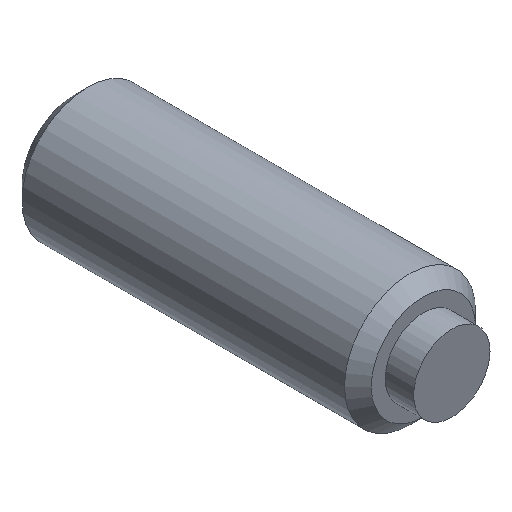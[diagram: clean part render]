
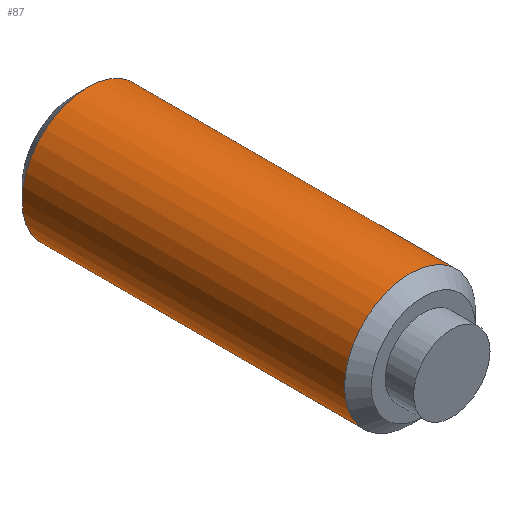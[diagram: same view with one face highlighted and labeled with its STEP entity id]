
A CAD part, isometric view. The second image highlights one B-rep face of the part: STEP entity #87.
In plain terms, the highlighted cylindrical face has radius 3 mm (diameter 6 mm), a full revolution.
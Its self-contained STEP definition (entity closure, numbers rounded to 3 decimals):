
#87 = ADVANCED_FACE( '', ( #118, #119 ), #120, .T. );
#118 = FACE_OUTER_BOUND( '', #152, .T. );
#119 = FACE_OUTER_BOUND( '', #153, .T. );
#120 = CYLINDRICAL_SURFACE( '', #154, 3. );
#152 = EDGE_LOOP( '', ( #238 ) );
#153 = EDGE_LOOP( '', ( #239 ) );
#154 = AXIS2_PLACEMENT_3D( '', #240, #241, #242 );
#238 = ORIENTED_EDGE( '', *, *, #270, .F. );
#239 = ORIENTED_EDGE( '', *, *, #271, .T. );
#240 = CARTESIAN_POINT( '', ( 0., 0., 0. ) );
#241 = DIRECTION( '', ( 0., 1., 0. ) );
#242 = DIRECTION( '', ( 0., 0., -1. ) );
#270 = EDGE_CURVE( '', #310, #310, #311, .T. );
#271 = EDGE_CURVE( '', #312, #312, #313, .T. );
#310 = VERTEX_POINT( '', #370 );
#311 = CIRCLE( '', #371, 3. );
#312 = VERTEX_POINT( '', #372 );
#313 = CIRCLE( '', #373, 3. );
#370 = CARTESIAN_POINT( '', ( 0., 1.913, -3. ) );
#371 = AXIS2_PLACEMENT_3D( '', #404, #405, #406 );
#372 = CARTESIAN_POINT( '', ( 0., 16.687, -3. ) );
#373 = AXIS2_PLACEMENT_3D( '', #407, #408, #409 );
#404 = CARTESIAN_POINT( '', ( 0., 1.913, 0. ) );
#405 = DIRECTION( '', ( 0., -1., 0. ) );
#406 = DIRECTION( '', ( 0., 0., -1. ) );
#407 = CARTESIAN_POINT( '', ( 0., 16.687, 0. ) );
#408 = DIRECTION( '', ( 0., -1., 0. ) );
#409 = DIRECTION( '', ( 0., 0., -1. ) );
